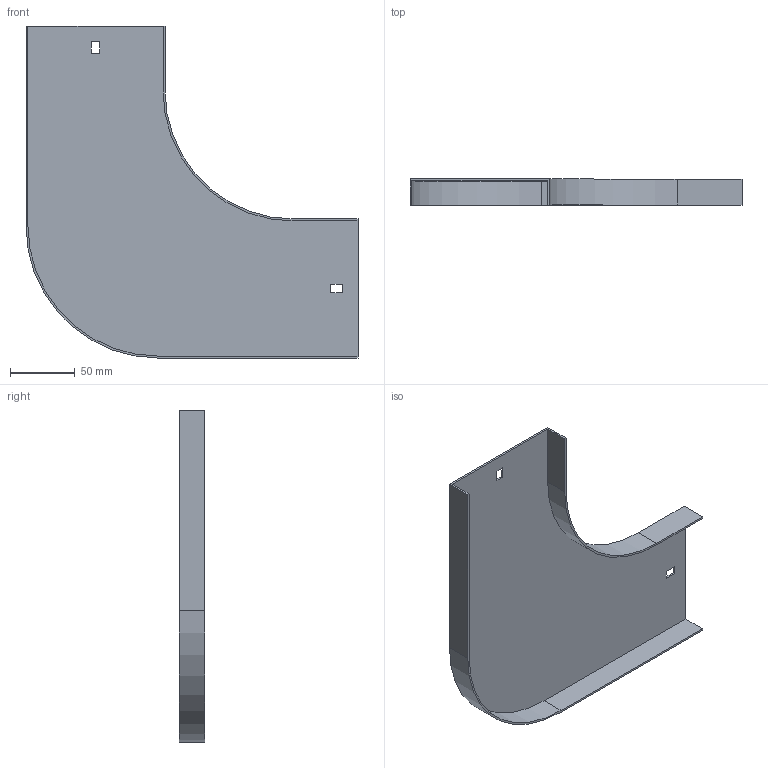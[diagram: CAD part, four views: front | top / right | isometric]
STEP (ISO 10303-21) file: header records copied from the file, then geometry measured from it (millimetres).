
FILE_DESCRIPTION (( 'STEP AP214' ), '1' );
FILE_NAME ('10N1R100.step', '2025-02-21T09:21:35', ( '' ), ( '' ), 'SwSTEP 2.0', 'SolidWorks 2023', '' );
FILE_SCHEMA (( 'AUTOMOTIVE_DESIGN' ));
Length unit declared in the file: millimetre
Products named in the file (1): 10N1R100
Bounding box: 255.5 x 20 x 255.5 mm (x, y, z)
Volume: 84513.3 mm3; surface area: 114292.6 mm2
Topology: 1 solids, 1 shells, 26 faces, 72 edges, 48 vertices
Faces by surface type: plane 22, cylinder 4
Entity records: 855 total; most frequent: CARTESIAN_POINT 147, ORIENTED_EDGE 144, DIRECTION 134, EDGE_CURVE 72, VECTOR 64, LINE 64, VERTEX_POINT 48, AXIS2_PLACEMENT_3D 35
